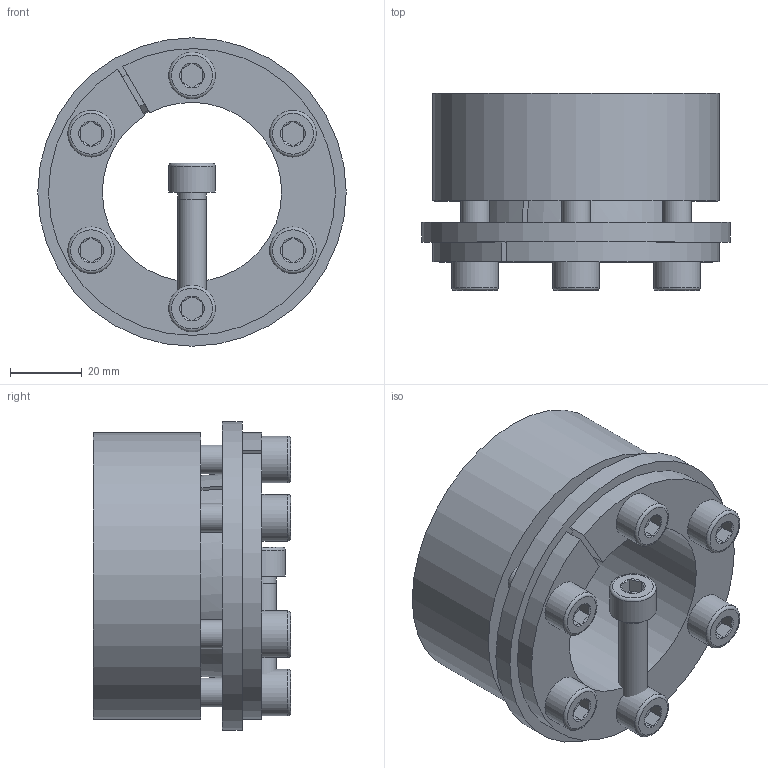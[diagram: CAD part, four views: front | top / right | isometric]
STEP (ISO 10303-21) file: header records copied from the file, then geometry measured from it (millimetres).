
FILE_DESCRIPTION( ( 'Unknown' ), '1' );
FILE_NAME( 'C:/Dokumente und Einstellungen/Sven/Desktop/homepage/cad - homepage/KBS71/KBS 71 - 50 x 80.stp', 'Unknown', ( 'Unknown' ), ( 'Unknown' ), 'XStep 1.0', 'Unknown', ' ' );
FILE_SCHEMA( ( 'automotive_design' ) );
Length unit declared in the file: millimetre
Products named in the file (3): Assem1; KBS 71 - 50 x 80; ISO EN DIN 4762 M8x30
Bounding box: 86 x 55 x 86 mm (x, y, z)
Volume: 255510.2 mm3; surface area: 85555.5 mm2
Topology: 9 solids, 9 shells, 247 faces, 537 edges, 322 vertices
Faces by surface type: plane 116, cylinder 60, cone 57, torus 14
Full cylindrical faces by diameter (mm): 7 x7, 8 x38, 13 x7, 86 x2
Entity records: 2126 total; most frequent: CARTESIAN_POINT 341, DIRECTION 320, ORIENTED_EDGE 252, AXIS2_PLACEMENT_3D 135, EDGE_CURVE 126, EDGE_LOOP 108, VERTEX_POINT 88, FACE_OUTER_BOUND 80
